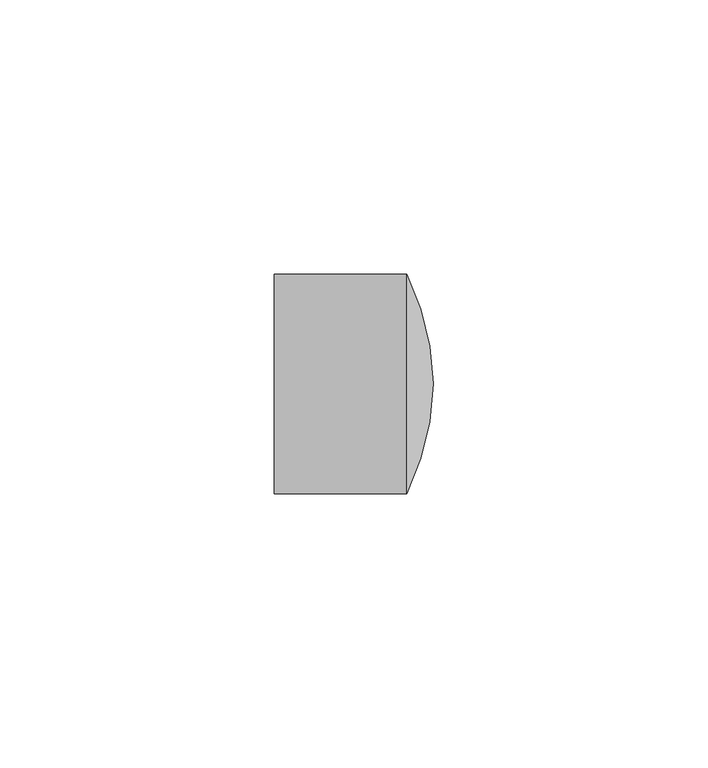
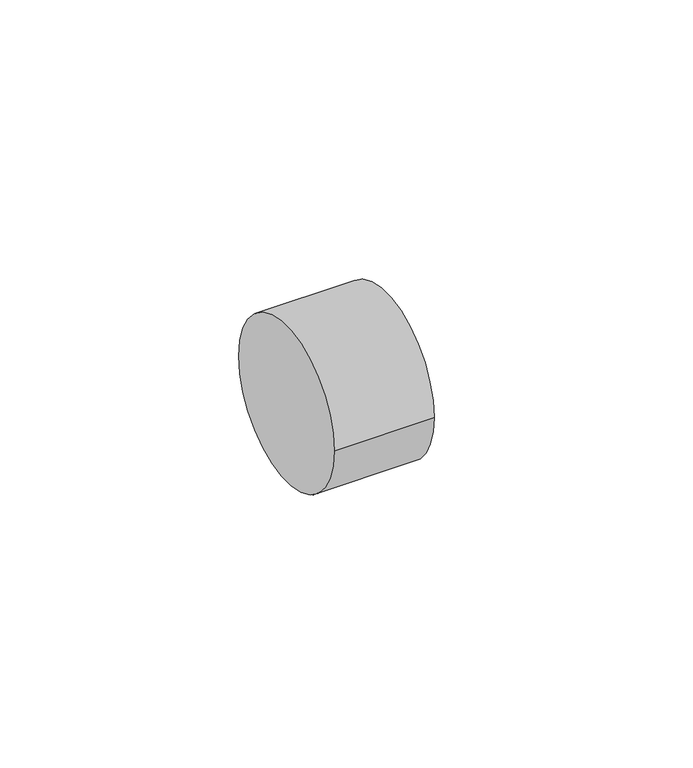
"""IFC4 building model written with IfcOpenShell, lengths in millimetres: pipe fitting geometry, 01051012 : Tapones H."""

from ifc_helpers import new_model, si_unit, point, frame, origin, place, context, project, spatial, circle_curve, ellipse_curve, trimmed, source, transform, mapped, element, save
from ifc_brep_helpers import plane_surface, cylinder_surface, revolved_surface, advanced_brep


def pipe_fitting_97f96f27(model_context):
    return source(origin(), model_context, "Body", "AdvancedBrep", [
        advanced_brep(
        [(24.1666667, 20.0, 0.0), (29.0, 0.0, 0.0), (24.1666667, -20.0, 0.0), (0.0, -20.0, 0.0), (0.0, 20.0, 0.0)],
        [
            (0, 1, circle_curve(frame((-20.3541424, -1.3432233, 0.0), z_axis=(0.0, 0.0, -1.0), x_axis=(1.0, 0.0, 0.0)), 49.3724176)),
            (1, 2, circle_curve(frame((-20.3541424, 1.3432233, 0.0), z_axis=(0.0, 0.0, -1.0), x_axis=(1.0, 0.0, 0.0)), 49.3724176)),
            (2, 0, circle_curve(frame((24.1666667, 0.0, 0.0), z_axis=(1.0, 0.0, 0.0), x_axis=(0.0, 1.0, 0.0)), 20.0)),
            (0, 2, circle_curve(frame((24.1666667, 0.0, 0.0), z_axis=(1.0, 0.0, 0.0), x_axis=(0.0, 1.0, 0.0)), 20.0)),
            (3, 4, circle_curve(frame((0.0, 0.0, 0.0), z_axis=(-1.0, 0.0, 0.0), x_axis=(0.0, 1.0, 0.0)), 20.0)),
            (4, 3, circle_curve(frame((0.0, 0.0, 0.0), z_axis=(-1.0, 0.0, 0.0), x_axis=(0.0, 1.0, 0.0)), 20.0)),
            (3, 2),
            (0, 4),
        ],
        [
            revolved_surface(trimmed(ellipse_curve(frame((-20.3541424, -1.3432233, 0.0), z_axis=(0.0, 0.0, 1.0), x_axis=(1.0, 0.0, 0.0)), 49.3724176, 49.3724176), [point((29.0, 0.0, 0.0))], [point((24.1666667, 20.0, 0.0))], True, "CARTESIAN"), (24.1666667, 0.0, 0.0), (-1.0, 0.0, 0.0)),
            plane_surface(frame((0.0, 0.0, 0.0), z_axis=(-1.0, 0.0, 0.0), x_axis=(0.0, 0.0, 1.0))),
            cylinder_surface(frame((0.0, 0.0, 0.0), z_axis=(-1.0, 0.0, 0.0), x_axis=(0.0, 1.0, 0.0)), 20.0),
        ],
        [
            (0, [[1, 2, 3]]),
            (0, [[-1, 4, -2]]),
            (1, [[5, 6]]),
            (2, [[-5, 7, -4, 8]]),
            (2, [[-6, -8, -3, -7]]),
        ],
    ),
    ])


if __name__ == "__main__":
    model = new_model("IFC4")
    model_context = context("Model", 3, world=origin())
    ifc_project = project(units=[si_unit("LENGTHUNIT", "METRE", prefix="MILLI")], contexts=[model_context])
    site = spatial("IfcSite", under=ifc_project)
    building = spatial("IfcBuilding", under=site)
    placement = place(None, origin())
    pipe_fitting_shape = pipe_fitting_97f96f27(model_context)
    element("IfcPipeFitting", 1, ObjectType="01051012 : Tapones H", at=placement, inside=building, context=model_context, shape_type="MappedRepresentation", body=[
        mapped(pipe_fitting_shape, transform((0.0, 0.0, 0.0), x_axis=(1.0, 0.0, 0.0), y_axis=(0.0, 1.0, 0.0), z_axis=(0.0, 0.0, 1.0))),
    ])
    save(model, "model.ifc")
